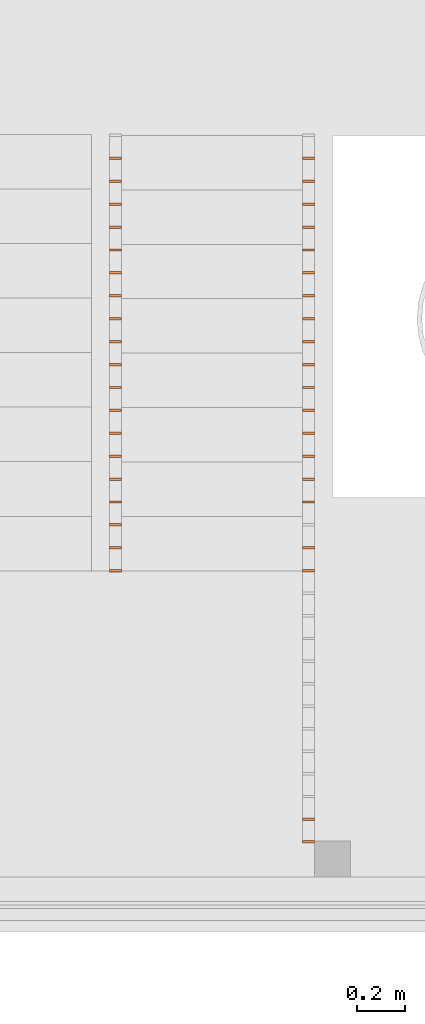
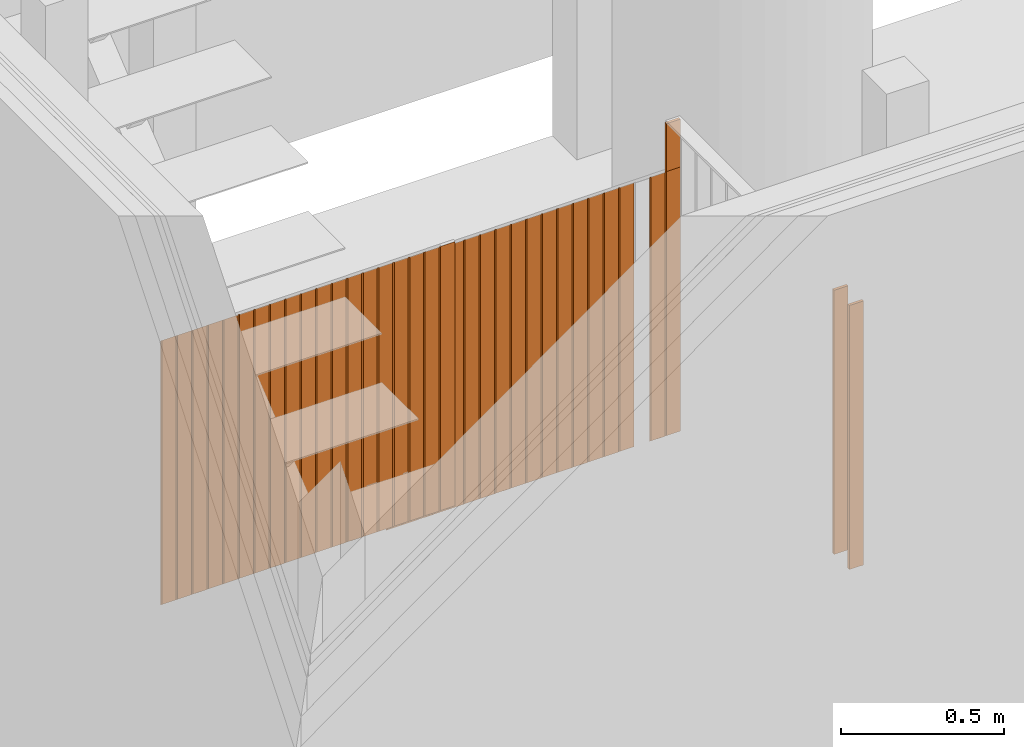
# One storey, part 107 of 112: 40 proxies, 3 elements without a shape of their own.
"""IFC2X3 building model written with IfcOpenShell, lengths in millimetres."""

from ifc_helpers import new_model, entity, si_unit, converted_unit, derived_unit, money_unit, direction, frame, origin_with_axes, place, context, subcontext, project, spatial, faceted_brep, material, type_object, element, aggregate, save


model = new_model("IFC2X3")

# Units and contexts
model_context = context("Model", 3, precision=0.01, world=origin_with_axes(), true_north=direction((0.0, 1.0)))
body_context = subcontext(model_context, "Body", "Model", "MODEL_VIEW")
ifc_project = project(units=[si_unit("LENGTHUNIT", "METRE", prefix="MILLI"), si_unit("AREAUNIT", "SQUARE_METRE"), si_unit("VOLUMEUNIT", "CUBIC_METRE"), converted_unit("PLANEANGLEUNIT", "DEGREE", entity("IfcPlaneAngleMeasure", 0.0174532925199), si_unit("PLANEANGLEUNIT", "RADIAN"), dimensions=[0, 0, 0, 0, 0, 0, 0]), si_unit("SOLIDANGLEUNIT", "STERADIAN"), money_unit("EUR"), converted_unit("TIMEUNIT", "Year", entity("IfcTimeMeasure", 31556926.0), si_unit("TIMEUNIT", "SECOND"), dimensions=[0, 0, 1, 0, 0, 0, 0]), si_unit("MASSUNIT", "GRAM", prefix="KILO"), si_unit("THERMODYNAMICTEMPERATUREUNIT", "DEGREE_CELSIUS"), si_unit("LUMINOUSINTENSITYUNIT", "LUMEN"), si_unit("ENERGYUNIT", "JOULE", prefix="MEGA"), derived_unit("THERMALCONDUCTANCEUNIT", [(si_unit("POWERUNIT", "WATT"), 1), (si_unit("LENGTHUNIT", "METRE"), -1), (si_unit("THERMODYNAMICTEMPERATUREUNIT", "KELVIN"), -1)]), derived_unit("SPECIFICHEATCAPACITYUNIT", [(si_unit("ENERGYUNIT", "JOULE"), 1), (si_unit("MASSUNIT", "GRAM", prefix="KILO"), -1), (si_unit("THERMODYNAMICTEMPERATUREUNIT", "KELVIN"), -1)]), derived_unit("MASSDENSITYUNIT", [(si_unit("MASSUNIT", "GRAM", prefix="KILO"), 1), (si_unit("VOLUMEUNIT", "CUBIC_METRE"), -1)])], contexts=[model_context])

# Site, building, storey
site_placement = place(None, origin_with_axes())
site = spatial("IfcSite", under=ifc_project, at=site_placement, Name="Politse- ja Piirivalveameti ning Päästeameti ühishoone", CompositionType="ELEMENT")
building_placement = place(site_placement, origin_with_axes())
building = spatial("IfcBuilding", under=site, at=building_placement, Name="Politse- ja Piirivalveameti ning Päästeameti ühishoone", CompositionType="ELEMENT")
storey_placement = place(building_placement, origin_with_axes())
storey = spatial("IfcBuildingStorey", under=building, at=storey_placement, Name="Esimene korrus", CompositionType="ELEMENT", Elevation=0.0)

# Railing, proxies
railing_type = type_object("IfcRailingType", Name="Railing Type", PredefinedType="NOTDEFINED")
railing_1_placement = place(storey_placement, frame((-13032.0653854, 2843.99975677, 0.0), z_axis=(0.0, 0.0, 1.0), x_axis=(-1.0, 0.0, 0.0)))
railing_1 = element("IfcRailing", 1, at=railing_1_placement, inside=storey, type_object=railing_type, Name="PIIRE 2", PredefinedType="NOTDEFINED")
ifc_material = material(Name="Teras - Konstruktsioon")
building_element_proxy_type = type_object("IfcBuildingElementProxyType", Name="IfcBuildingElementProxy", PredefinedType="NOTDEFINED")
proxy_1_placement = place(railing_1_placement, frame((-25.0, 1648.49975677, 1466.66666667), z_axis=(0.0, 0.0, 1.0), x_axis=(-1.0, 0.0, 0.0)))
proxy_1 = element("IfcBuildingElementProxy", 2, at=proxy_1_placement, type_object=building_element_proxy_type, material=ifc_material, Name="PIIRDE POST - 001", context=body_context, shape_type="Brep", body=[
    faceted_brep([(-25.0, -5.0, 4.06243551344), (25.0, -5.0, 4.06243551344), (25.0, -5.0, 994.062435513), (-25.0, -5.0, 994.062435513), (-25.0, 5.0, -4.06243551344), (25.0, 5.0, -4.06243551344), (25.0, 5.0, 985.937564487), (-25.0, 5.0, 985.937564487)], [[[0, 1, 2, 3]], [[0, 4, 5, 1]], [[1, 5, 6, 2]], [[3, 2, 6, 7]], [[4, 0, 3, 7]], [[5, 4, 7, 6]]]),
])
proxy_2_placement = place(railing_1_placement, frame((-25.0, -61.6488469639, 77.1929699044), z_axis=(0.0, 0.0, 1.0), x_axis=(-1.0, 0.0, 0.0)))
proxy_2 = element("IfcBuildingElementProxy", 3, at=proxy_2_placement, type_object=building_element_proxy_type, material=ifc_material, Name="BALUSTER - 001", context=body_context, shape_type="Brep", body=[
    faceted_brep([(-25.0, -5.0, 4.06243551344), (25.0, -5.0, 4.06243551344), (25.0, -5.0, 994.062448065), (-25.0, -5.0, 994.062448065), (-25.0, 5.0, -4.06243551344), (25.0, 5.0, -4.06243551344), (25.0, 5.0, 985.937577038), (-25.0, 5.0, 985.937577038)], [[[0, 1, 2, 3]], [[0, 4, 5, 1]], [[1, 5, 6, 2]], [[3, 2, 6, 7]], [[4, 0, 3, 7]], [[5, 4, 7, 6]]]),
])
proxy_3_placement = place(railing_1_placement, frame((-25.0, 33.3594087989, 154.385952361), z_axis=(0.0, 0.0, 1.0), x_axis=(-1.0, 0.0, 0.0)))
proxy_3 = element("IfcBuildingElementProxy", 4, at=proxy_3_placement, type_object=building_element_proxy_type, material=ifc_material, Name="BALUSTER - 001", context=body_context, shape_type="Brep", body=[
    faceted_brep([(-25.0, -5.0, 4.06243551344), (25.0, -5.0, 4.06243551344), (25.0, -5.0, 994.062448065), (-25.0, -5.0, 994.062448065), (-25.0, 5.0, -4.06243551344), (25.0, 5.0, -4.06243551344), (25.0, 5.0, 985.937577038), (-25.0, 5.0, 985.937577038)], [[[0, 1, 2, 3]], [[0, 4, 5, 1]], [[1, 5, 6, 2]], [[3, 2, 6, 7]], [[4, 0, 3, 7]], [[5, 4, 7, 6]]]),
])
proxy_4_placement = place(railing_1_placement, frame((-25.0, 128.367664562, 231.578934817), z_axis=(0.0, 0.0, 1.0), x_axis=(-1.0, 0.0, 0.0)))
proxy_4 = element("IfcBuildingElementProxy", 5, at=proxy_4_placement, type_object=building_element_proxy_type, material=ifc_material, Name="BALUSTER - 001", context=body_context, shape_type="Brep", body=[
    faceted_brep([(-25.0, -5.0, 4.06243551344), (25.0, -5.0, 4.06243551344), (25.0, -5.0, 994.062448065), (-25.0, -5.0, 994.062448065), (-25.0, 5.0, -4.06243551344), (25.0, 5.0, -4.06243551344), (25.0, 5.0, 985.937577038), (-25.0, 5.0, 985.937577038)], [[[0, 1, 2, 3]], [[0, 4, 5, 1]], [[1, 5, 6, 2]], [[3, 2, 6, 7]], [[4, 0, 3, 7]], [[5, 4, 7, 6]]]),
])
proxy_5_placement = place(railing_1_placement, frame((-25.0, 223.375920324, 308.771917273), z_axis=(0.0, 0.0, 1.0), x_axis=(-1.0, 0.0, 0.0)))
proxy_5 = element("IfcBuildingElementProxy", 6, at=proxy_5_placement, type_object=building_element_proxy_type, material=ifc_material, Name="BALUSTER - 001", context=body_context, shape_type="Brep", body=[
    faceted_brep([(-25.0, -5.0, 4.06243551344), (25.0, -5.0, 4.06243551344), (25.0, -5.0, 994.062448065), (-25.0, -5.0, 994.062448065), (-25.0, 5.0, -4.06243551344), (25.0, 5.0, -4.06243551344), (25.0, 5.0, 985.937577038), (-25.0, 5.0, 985.937577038)], [[[0, 1, 2, 3]], [[0, 4, 5, 1]], [[1, 5, 6, 2]], [[3, 2, 6, 7]], [[4, 0, 3, 7]], [[5, 4, 7, 6]]]),
])
proxy_6_placement = place(railing_1_placement, frame((-25.0, 318.384176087, 385.964899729), z_axis=(0.0, 0.0, 1.0), x_axis=(-1.0, 0.0, 0.0)))
proxy_6 = element("IfcBuildingElementProxy", 7, at=proxy_6_placement, type_object=building_element_proxy_type, material=ifc_material, Name="BALUSTER - 001", context=body_context, shape_type="Brep", body=[
    faceted_brep([(-25.0, -5.0, 4.06243551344), (25.0, -5.0, 4.06243551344), (25.0, -5.0, 994.062448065), (-25.0, -5.0, 994.062448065), (-25.0, 5.0, -4.06243551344), (25.0, 5.0, -4.06243551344), (25.0, 5.0, 985.937577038), (-25.0, 5.0, 985.937577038)], [[[0, 1, 2, 3]], [[0, 4, 5, 1]], [[1, 5, 6, 2]], [[3, 2, 6, 7]], [[4, 0, 3, 7]], [[5, 4, 7, 6]]]),
])
proxy_7_placement = place(railing_1_placement, frame((-25.0, 413.39243185, 463.157882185), z_axis=(0.0, 0.0, 1.0), x_axis=(-1.0, 0.0, 0.0)))
proxy_7 = element("IfcBuildingElementProxy", 8, at=proxy_7_placement, type_object=building_element_proxy_type, material=ifc_material, Name="BALUSTER - 001", context=body_context, shape_type="Brep", body=[
    faceted_brep([(-25.0, -5.0, 4.06243551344), (25.0, -5.0, 4.06243551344), (25.0, -5.0, 994.062448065), (-25.0, -5.0, 994.062448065), (-25.0, 5.0, -4.06243551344), (25.0, 5.0, -4.06243551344), (25.0, 5.0, 985.937577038), (-25.0, 5.0, 985.937577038)], [[[0, 1, 2, 3]], [[0, 4, 5, 1]], [[1, 5, 6, 2]], [[3, 2, 6, 7]], [[4, 0, 3, 7]], [[5, 4, 7, 6]]]),
])
proxy_8_placement = place(railing_1_placement, frame((-25.0, 508.400687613, 540.350864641), z_axis=(0.0, 0.0, 1.0), x_axis=(-1.0, 0.0, 0.0)))
proxy_8 = element("IfcBuildingElementProxy", 9, at=proxy_8_placement, type_object=building_element_proxy_type, material=ifc_material, Name="BALUSTER - 001", context=body_context, shape_type="Brep", body=[
    faceted_brep([(-25.0, -5.0, 4.06243551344), (25.0, -5.0, 4.06243551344), (25.0, -5.0, 994.062448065), (-25.0, -5.0, 994.062448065), (-25.0, 5.0, -4.06243551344), (25.0, 5.0, -4.06243551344), (25.0, 5.0, 985.937577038), (-25.0, 5.0, 985.937577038)], [[[0, 1, 2, 3]], [[0, 4, 5, 1]], [[1, 5, 6, 2]], [[3, 2, 6, 7]], [[4, 0, 3, 7]], [[5, 4, 7, 6]]]),
])
proxy_9_placement = place(railing_1_placement, frame((-25.0, 603.408943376, 617.543847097), z_axis=(0.0, 0.0, 1.0), x_axis=(-1.0, 0.0, 0.0)))
proxy_9 = element("IfcBuildingElementProxy", 10, at=proxy_9_placement, type_object=building_element_proxy_type, material=ifc_material, Name="BALUSTER - 001", context=body_context, shape_type="Brep", body=[
    faceted_brep([(-25.0, -5.0, 4.06243551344), (25.0, -5.0, 4.06243551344), (25.0, -5.0, 994.062448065), (-25.0, -5.0, 994.062448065), (-25.0, 5.0, -4.06243551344), (25.0, 5.0, -4.06243551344), (25.0, 5.0, 985.937577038), (-25.0, 5.0, 985.937577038)], [[[0, 1, 2, 3]], [[0, 4, 5, 1]], [[1, 5, 6, 2]], [[3, 2, 6, 7]], [[4, 0, 3, 7]], [[5, 4, 7, 6]]]),
])
proxy_10_placement = place(railing_1_placement, frame((-25.0, 698.417199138, 694.736829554), z_axis=(0.0, 0.0, 1.0), x_axis=(-1.0, 0.0, 0.0)))
proxy_10 = element("IfcBuildingElementProxy", 11, at=proxy_10_placement, type_object=building_element_proxy_type, material=ifc_material, Name="BALUSTER - 001", context=body_context, shape_type="Brep", body=[
    faceted_brep([(-25.0, -5.0, 4.06243551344), (25.0, -5.0, 4.06243551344), (25.0, -5.0, 994.062448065), (-25.0, -5.0, 994.062448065), (-25.0, 5.0, -4.06243551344), (25.0, 5.0, -4.06243551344), (25.0, 5.0, 985.937577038), (-25.0, 5.0, 985.937577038)], [[[0, 1, 2, 3]], [[0, 4, 5, 1]], [[1, 5, 6, 2]], [[3, 2, 6, 7]], [[4, 0, 3, 7]], [[5, 4, 7, 6]]]),
])
proxy_11_placement = place(railing_1_placement, frame((-25.0, 793.425454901, 771.92981201), z_axis=(0.0, 0.0, 1.0), x_axis=(-1.0, 0.0, 0.0)))
proxy_11 = element("IfcBuildingElementProxy", 12, at=proxy_11_placement, type_object=building_element_proxy_type, material=ifc_material, Name="BALUSTER - 001", context=body_context, shape_type="Brep", body=[
    faceted_brep([(-25.0, -5.0, 4.06243551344), (25.0, -5.0, 4.06243551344), (25.0, -5.0, 994.062448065), (-25.0, -5.0, 994.062448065), (-25.0, 5.0, -4.06243551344), (25.0, 5.0, -4.06243551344), (25.0, 5.0, 985.937577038), (-25.0, 5.0, 985.937577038)], [[[0, 1, 2, 3]], [[0, 4, 5, 1]], [[1, 5, 6, 2]], [[3, 2, 6, 7]], [[4, 0, 3, 7]], [[5, 4, 7, 6]]]),
])
proxy_12_placement = place(railing_1_placement, frame((-25.0, 888.433710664, 849.122794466), z_axis=(0.0, 0.0, 1.0), x_axis=(-1.0, 0.0, 0.0)))
proxy_12 = element("IfcBuildingElementProxy", 13, at=proxy_12_placement, type_object=building_element_proxy_type, material=ifc_material, Name="BALUSTER - 001", context=body_context, shape_type="Brep", body=[
    faceted_brep([(-25.0, -5.0, 4.06243551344), (25.0, -5.0, 4.06243551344), (25.0, -5.0, 994.062448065), (-25.0, -5.0, 994.062448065), (-25.0, 5.0, -4.06243551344), (25.0, 5.0, -4.06243551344), (25.0, 5.0, 985.937577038), (-25.0, 5.0, 985.937577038)], [[[0, 1, 2, 3]], [[0, 4, 5, 1]], [[1, 5, 6, 2]], [[3, 2, 6, 7]], [[4, 0, 3, 7]], [[5, 4, 7, 6]]]),
])
proxy_13_placement = place(railing_1_placement, frame((-25.0, 983.441966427, 926.315776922), z_axis=(0.0, 0.0, 1.0), x_axis=(-1.0, 0.0, 0.0)))
proxy_13 = element("IfcBuildingElementProxy", 14, at=proxy_13_placement, type_object=building_element_proxy_type, material=ifc_material, Name="BALUSTER - 001", context=body_context, shape_type="Brep", body=[
    faceted_brep([(-25.0, -5.0, 4.06243551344), (25.0, -5.0, 4.06243551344), (25.0, -5.0, 994.062448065), (-25.0, -5.0, 994.062448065), (-25.0, 5.0, -4.06243551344), (25.0, 5.0, -4.06243551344), (25.0, 5.0, 985.937577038), (-25.0, 5.0, 985.937577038)], [[[0, 1, 2, 3]], [[0, 4, 5, 1]], [[1, 5, 6, 2]], [[3, 2, 6, 7]], [[4, 0, 3, 7]], [[5, 4, 7, 6]]]),
])
proxy_14_placement = place(railing_1_placement, frame((-25.0, 1078.45022219, 1003.50875938), z_axis=(0.0, 0.0, 1.0), x_axis=(-1.0, 0.0, 0.0)))
proxy_14 = element("IfcBuildingElementProxy", 15, at=proxy_14_placement, type_object=building_element_proxy_type, material=ifc_material, Name="BALUSTER - 001", context=body_context, shape_type="Brep", body=[
    faceted_brep([(-25.0, -5.0, 4.06243551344), (25.0, -5.0, 4.06243551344), (25.0, -5.0, 994.062448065), (-25.0, -5.0, 994.062448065), (-25.0, 5.0, -4.06243551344), (25.0, 5.0, -4.06243551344), (25.0, 5.0, 985.937577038), (-25.0, 5.0, 985.937577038)], [[[0, 1, 2, 3]], [[0, 4, 5, 1]], [[1, 5, 6, 2]], [[3, 2, 6, 7]], [[4, 0, 3, 7]], [[5, 4, 7, 6]]]),
])
proxy_15_placement = place(railing_1_placement, frame((-25.0, 1173.45847795, 1080.70174183), z_axis=(0.0, 0.0, 1.0), x_axis=(-1.0, 0.0, 0.0)))
proxy_15 = element("IfcBuildingElementProxy", 16, at=proxy_15_placement, type_object=building_element_proxy_type, material=ifc_material, Name="BALUSTER - 001", context=body_context, shape_type="Brep", body=[
    faceted_brep([(-25.0, -5.0, 4.06243551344), (25.0, -5.0, 4.06243551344), (25.0, -5.0, 994.062448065), (-25.0, -5.0, 994.062448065), (-25.0, 5.0, -4.06243551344), (25.0, 5.0, -4.06243551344), (25.0, 5.0, 985.937577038), (-25.0, 5.0, 985.937577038)], [[[0, 1, 2, 3]], [[0, 4, 5, 1]], [[1, 5, 6, 2]], [[3, 2, 6, 7]], [[4, 0, 3, 7]], [[5, 4, 7, 6]]]),
])
proxy_16_placement = place(railing_1_placement, frame((-25.0, 1268.46673372, 1157.89472429), z_axis=(0.0, 0.0, 1.0), x_axis=(-1.0, 0.0, 0.0)))
proxy_16 = element("IfcBuildingElementProxy", 17, at=proxy_16_placement, type_object=building_element_proxy_type, material=ifc_material, Name="BALUSTER - 001", context=body_context, shape_type="Brep", body=[
    faceted_brep([(-25.0, -5.0, 4.06243551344), (25.0, -5.0, 4.06243551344), (25.0, -5.0, 994.062448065), (-25.0, -5.0, 994.062448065), (-25.0, 5.0, -4.06243551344), (25.0, 5.0, -4.06243551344), (25.0, 5.0, 985.937577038), (-25.0, 5.0, 985.937577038)], [[[0, 1, 2, 3]], [[0, 4, 5, 1]], [[1, 5, 6, 2]], [[3, 2, 6, 7]], [[4, 0, 3, 7]], [[5, 4, 7, 6]]]),
])
proxy_17_placement = place(railing_1_placement, frame((-25.0, 1363.47498948, 1235.08770675), z_axis=(0.0, 0.0, 1.0), x_axis=(-1.0, 0.0, 0.0)))
proxy_17 = element("IfcBuildingElementProxy", 18, at=proxy_17_placement, type_object=building_element_proxy_type, material=ifc_material, Name="BALUSTER - 001", context=body_context, shape_type="Brep", body=[
    faceted_brep([(-25.0, -5.0, 4.06243551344), (25.0, -5.0, 4.06243551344), (25.0, -5.0, 994.062448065), (-25.0, -5.0, 994.062448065), (-25.0, 5.0, -4.06243551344), (25.0, 5.0, -4.06243551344), (25.0, 5.0, 985.937577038), (-25.0, 5.0, 985.937577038)], [[[0, 1, 2, 3]], [[0, 4, 5, 1]], [[1, 5, 6, 2]], [[3, 2, 6, 7]], [[4, 0, 3, 7]], [[5, 4, 7, 6]]]),
])
proxy_18_placement = place(railing_1_placement, frame((-25.0, 1458.48324524, 1312.2806892), z_axis=(0.0, 0.0, 1.0), x_axis=(-1.0, 0.0, 0.0)))
proxy_18 = element("IfcBuildingElementProxy", 19, at=proxy_18_placement, type_object=building_element_proxy_type, material=ifc_material, Name="BALUSTER - 001", context=body_context, shape_type="Brep", body=[
    faceted_brep([(-25.0, -5.0, 4.06243551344), (25.0, -5.0, 4.06243551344), (25.0, -5.0, 994.062448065), (-25.0, -5.0, 994.062448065), (-25.0, 5.0, -4.06243551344), (25.0, 5.0, -4.06243551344), (25.0, 5.0, 985.937577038), (-25.0, 5.0, 985.937577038)], [[[0, 1, 2, 3]], [[0, 4, 5, 1]], [[1, 5, 6, 2]], [[3, 2, 6, 7]], [[4, 0, 3, 7]], [[5, 4, 7, 6]]]),
])
proxy_19_placement = place(railing_1_placement, frame((-25.0, 1553.491501, 1389.47367166), z_axis=(0.0, 0.0, 1.0), x_axis=(-1.0, 0.0, 0.0)))
proxy_19 = element("IfcBuildingElementProxy", 20, at=proxy_19_placement, type_object=building_element_proxy_type, material=ifc_material, Name="BALUSTER - 001", context=body_context, shape_type="Brep", body=[
    faceted_brep([(-25.0, -5.0, 4.06243551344), (25.0, -5.0, 4.06243551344), (25.0, -5.0, 994.062448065), (-25.0, -5.0, 994.062448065), (-25.0, 5.0, -4.06243551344), (25.0, 5.0, -4.06243551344), (25.0, 5.0, 985.937577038), (-25.0, 5.0, 985.937577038)], [[[0, 1, 2, 3]], [[0, 4, 5, 1]], [[1, 5, 6, 2]], [[3, 2, 6, 7]], [[4, 0, 3, 7]], [[5, 4, 7, 6]]]),
])
aggregate(railing_1, [proxy_1, proxy_2, proxy_3, proxy_4, proxy_5, proxy_6, proxy_7, proxy_8, proxy_9, proxy_10, proxy_11, proxy_12, proxy_13, proxy_14, proxy_15, proxy_16, proxy_17, proxy_18, proxy_19])

railing_2_placement = place(storey_placement, frame((-12182.0653854, 2843.99975677, 0.0), z_axis=(0.0, 0.0, 1.0), x_axis=(1.0, 0.0, 0.0)))
railing_2 = element("IfcRailing", 21, at=railing_2_placement, inside=storey, type_object=railing_type, Name="PIIRE 2", PredefinedType="NOTDEFINED")
proxy_20_placement = place(railing_2_placement, frame((-25.0, -1648.49975677, 1466.66666667), z_axis=(0.0, 0.0, 1.0), x_axis=(1.0, 0.0, 0.0)))
proxy_20 = element("IfcBuildingElementProxy", 22, at=proxy_20_placement, type_object=building_element_proxy_type, material=ifc_material, Name="PIIRDE POST - 001", context=body_context, shape_type="Brep", body=[
    faceted_brep([(-25.0, -5.0, 4.06243551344), (25.0, -5.0, 4.06243551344), (25.0, -5.0, 994.062435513), (-25.0, -5.0, 994.062435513), (-25.0, 5.0, -4.06243551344), (25.0, 5.0, -4.06243551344), (25.0, 5.0, 985.937564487), (-25.0, 5.0, 985.937564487)], [[[0, 1, 2, 3]], [[0, 4, 5, 1]], [[1, 5, 6, 2]], [[3, 2, 6, 7]], [[4, 0, 3, 7]], [[5, 4, 7, 6]]]),
])
proxy_21_placement = place(railing_2_placement, frame((-25.0, 61.6488469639, 77.1929699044), z_axis=(0.0, 0.0, 1.0), x_axis=(1.0, 0.0, 0.0)))
proxy_21 = element("IfcBuildingElementProxy", 23, at=proxy_21_placement, type_object=building_element_proxy_type, material=ifc_material, Name="BALUSTER - 001", context=body_context, shape_type="Brep", body=[
    faceted_brep([(-25.0, -5.0, 4.06243551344), (25.0, -5.0, 4.06243551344), (25.0, -5.0, 994.062448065), (-25.0, -5.0, 994.062448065), (-25.0, 5.0, -4.06243551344), (25.0, 5.0, -4.06243551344), (25.0, 5.0, 985.937577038), (-25.0, 5.0, 985.937577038)], [[[0, 1, 2, 3]], [[0, 4, 5, 1]], [[1, 5, 6, 2]], [[3, 2, 6, 7]], [[4, 0, 3, 7]], [[5, 4, 7, 6]]]),
])
proxy_22_placement = place(railing_2_placement, frame((-25.0, -33.3594087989, 154.385952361), z_axis=(0.0, 0.0, 1.0), x_axis=(1.0, 0.0, 0.0)))
proxy_22 = element("IfcBuildingElementProxy", 24, at=proxy_22_placement, type_object=building_element_proxy_type, material=ifc_material, Name="BALUSTER - 001", context=body_context, shape_type="Brep", body=[
    faceted_brep([(-25.0, -5.0, 4.06243551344), (25.0, -5.0, 4.06243551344), (25.0, -5.0, 994.062448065), (-25.0, -5.0, 994.062448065), (-25.0, 5.0, -4.06243551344), (25.0, 5.0, -4.06243551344), (25.0, 5.0, 985.937577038), (-25.0, 5.0, 985.937577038)], [[[0, 1, 2, 3]], [[0, 4, 5, 1]], [[1, 5, 6, 2]], [[3, 2, 6, 7]], [[4, 0, 3, 7]], [[5, 4, 7, 6]]]),
])
proxy_23_placement = place(railing_2_placement, frame((-25.0, -128.367664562, 231.578934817), z_axis=(0.0, 0.0, 1.0), x_axis=(1.0, 0.0, 0.0)))
proxy_23 = element("IfcBuildingElementProxy", 25, at=proxy_23_placement, type_object=building_element_proxy_type, material=ifc_material, Name="BALUSTER - 001", context=body_context, shape_type="Brep", body=[
    faceted_brep([(-25.0, -5.0, 4.06243551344), (25.0, -5.0, 4.06243551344), (25.0, -5.0, 994.062448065), (-25.0, -5.0, 994.062448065), (-25.0, 5.0, -4.06243551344), (25.0, 5.0, -4.06243551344), (25.0, 5.0, 985.937577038), (-25.0, 5.0, 985.937577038)], [[[0, 1, 2, 3]], [[0, 4, 5, 1]], [[1, 5, 6, 2]], [[3, 2, 6, 7]], [[4, 0, 3, 7]], [[5, 4, 7, 6]]]),
])
proxy_24_placement = place(railing_2_placement, frame((-25.0, -223.375920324, 308.771917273), z_axis=(0.0, 0.0, 1.0), x_axis=(1.0, 0.0, 0.0)))
proxy_24 = element("IfcBuildingElementProxy", 26, at=proxy_24_placement, type_object=building_element_proxy_type, material=ifc_material, Name="BALUSTER - 001", context=body_context, shape_type="Brep", body=[
    faceted_brep([(-25.0, -5.0, 4.06243551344), (25.0, -5.0, 4.06243551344), (25.0, -5.0, 994.062448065), (-25.0, -5.0, 994.062448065), (-25.0, 5.0, -4.06243551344), (25.0, 5.0, -4.06243551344), (25.0, 5.0, 985.937577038), (-25.0, 5.0, 985.937577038)], [[[0, 1, 2, 3]], [[0, 4, 5, 1]], [[1, 5, 6, 2]], [[3, 2, 6, 7]], [[4, 0, 3, 7]], [[5, 4, 7, 6]]]),
])
proxy_25_placement = place(railing_2_placement, frame((-25.0, -318.384176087, 385.964899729), z_axis=(0.0, 0.0, 1.0), x_axis=(1.0, 0.0, 0.0)))
proxy_25 = element("IfcBuildingElementProxy", 27, at=proxy_25_placement, type_object=building_element_proxy_type, material=ifc_material, Name="BALUSTER - 001", context=body_context, shape_type="Brep", body=[
    faceted_brep([(-25.0, -5.0, 4.06243551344), (25.0, -5.0, 4.06243551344), (25.0, -5.0, 994.062448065), (-25.0, -5.0, 994.062448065), (-25.0, 5.0, -4.06243551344), (25.0, 5.0, -4.06243551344), (25.0, 5.0, 985.937577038), (-25.0, 5.0, 985.937577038)], [[[0, 1, 2, 3]], [[0, 4, 5, 1]], [[1, 5, 6, 2]], [[3, 2, 6, 7]], [[4, 0, 3, 7]], [[5, 4, 7, 6]]]),
])
proxy_26_placement = place(railing_2_placement, frame((-25.0, -413.39243185, 463.157882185), z_axis=(0.0, 0.0, 1.0), x_axis=(1.0, 0.0, 0.0)))
proxy_26 = element("IfcBuildingElementProxy", 28, at=proxy_26_placement, type_object=building_element_proxy_type, material=ifc_material, Name="BALUSTER - 001", context=body_context, shape_type="Brep", body=[
    faceted_brep([(-25.0, -5.0, 4.06243551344), (25.0, -5.0, 4.06243551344), (25.0, -5.0, 994.062448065), (-25.0, -5.0, 994.062448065), (-25.0, 5.0, -4.06243551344), (25.0, 5.0, -4.06243551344), (25.0, 5.0, 985.937577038), (-25.0, 5.0, 985.937577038)], [[[0, 1, 2, 3]], [[0, 4, 5, 1]], [[1, 5, 6, 2]], [[3, 2, 6, 7]], [[4, 0, 3, 7]], [[5, 4, 7, 6]]]),
])
proxy_27_placement = place(railing_2_placement, frame((-25.0, -508.400687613, 540.350864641), z_axis=(0.0, 0.0, 1.0), x_axis=(1.0, 0.0, 0.0)))
proxy_27 = element("IfcBuildingElementProxy", 29, at=proxy_27_placement, type_object=building_element_proxy_type, material=ifc_material, Name="BALUSTER - 001", context=body_context, shape_type="Brep", body=[
    faceted_brep([(-25.0, -5.0, 4.06243551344), (25.0, -5.0, 4.06243551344), (25.0, -5.0, 994.062448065), (-25.0, -5.0, 994.062448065), (-25.0, 5.0, -4.06243551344), (25.0, 5.0, -4.06243551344), (25.0, 5.0, 985.937577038), (-25.0, 5.0, 985.937577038)], [[[0, 1, 2, 3]], [[0, 4, 5, 1]], [[1, 5, 6, 2]], [[3, 2, 6, 7]], [[4, 0, 3, 7]], [[5, 4, 7, 6]]]),
])
proxy_28_placement = place(railing_2_placement, frame((-25.0, -603.408943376, 617.543847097), z_axis=(0.0, 0.0, 1.0), x_axis=(1.0, 0.0, 0.0)))
proxy_28 = element("IfcBuildingElementProxy", 30, at=proxy_28_placement, type_object=building_element_proxy_type, material=ifc_material, Name="BALUSTER - 001", context=body_context, shape_type="Brep", body=[
    faceted_brep([(-25.0, -5.0, 4.06243551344), (25.0, -5.0, 4.06243551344), (25.0, -5.0, 994.062448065), (-25.0, -5.0, 994.062448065), (-25.0, 5.0, -4.06243551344), (25.0, 5.0, -4.06243551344), (25.0, 5.0, 985.937577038), (-25.0, 5.0, 985.937577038)], [[[0, 1, 2, 3]], [[0, 4, 5, 1]], [[1, 5, 6, 2]], [[3, 2, 6, 7]], [[4, 0, 3, 7]], [[5, 4, 7, 6]]]),
])
proxy_29_placement = place(railing_2_placement, frame((-25.0, -698.417199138, 694.736829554), z_axis=(0.0, 0.0, 1.0), x_axis=(1.0, 0.0, 0.0)))
proxy_29 = element("IfcBuildingElementProxy", 31, at=proxy_29_placement, type_object=building_element_proxy_type, material=ifc_material, Name="BALUSTER - 001", context=body_context, shape_type="Brep", body=[
    faceted_brep([(-25.0, -5.0, 4.06243551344), (25.0, -5.0, 4.06243551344), (25.0, -5.0, 994.062448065), (-25.0, -5.0, 994.062448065), (-25.0, 5.0, -4.06243551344), (25.0, 5.0, -4.06243551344), (25.0, 5.0, 985.937577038), (-25.0, 5.0, 985.937577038)], [[[0, 1, 2, 3]], [[0, 4, 5, 1]], [[1, 5, 6, 2]], [[3, 2, 6, 7]], [[4, 0, 3, 7]], [[5, 4, 7, 6]]]),
])
proxy_30_placement = place(railing_2_placement, frame((-25.0, -793.425454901, 771.92981201), z_axis=(0.0, 0.0, 1.0), x_axis=(1.0, 0.0, 0.0)))
proxy_30 = element("IfcBuildingElementProxy", 32, at=proxy_30_placement, type_object=building_element_proxy_type, material=ifc_material, Name="BALUSTER - 001", context=body_context, shape_type="Brep", body=[
    faceted_brep([(-25.0, -5.0, 4.06243551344), (25.0, -5.0, 4.06243551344), (25.0, -5.0, 994.062448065), (-25.0, -5.0, 994.062448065), (-25.0, 5.0, -4.06243551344), (25.0, 5.0, -4.06243551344), (25.0, 5.0, 985.937577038), (-25.0, 5.0, 985.937577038)], [[[0, 1, 2, 3]], [[0, 4, 5, 1]], [[1, 5, 6, 2]], [[3, 2, 6, 7]], [[4, 0, 3, 7]], [[5, 4, 7, 6]]]),
])
proxy_31_placement = place(railing_2_placement, frame((-25.0, -888.433710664, 849.122794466), z_axis=(0.0, 0.0, 1.0), x_axis=(1.0, 0.0, 0.0)))
proxy_31 = element("IfcBuildingElementProxy", 33, at=proxy_31_placement, type_object=building_element_proxy_type, material=ifc_material, Name="BALUSTER - 001", context=body_context, shape_type="Brep", body=[
    faceted_brep([(-25.0, -5.0, 4.06243551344), (25.0, -5.0, 4.06243551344), (25.0, -5.0, 994.062448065), (-25.0, -5.0, 994.062448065), (-25.0, 5.0, -4.06243551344), (25.0, 5.0, -4.06243551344), (25.0, 5.0, 985.937577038), (-25.0, 5.0, 985.937577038)], [[[0, 1, 2, 3]], [[0, 4, 5, 1]], [[1, 5, 6, 2]], [[3, 2, 6, 7]], [[4, 0, 3, 7]], [[5, 4, 7, 6]]]),
])
proxy_32_placement = place(railing_2_placement, frame((-25.0, -983.441966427, 926.315776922), z_axis=(0.0, 0.0, 1.0), x_axis=(1.0, 0.0, 0.0)))
proxy_32 = element("IfcBuildingElementProxy", 34, at=proxy_32_placement, type_object=building_element_proxy_type, material=ifc_material, Name="BALUSTER - 001", context=body_context, shape_type="Brep", body=[
    faceted_brep([(-25.0, -5.0, 4.06243551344), (25.0, -5.0, 4.06243551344), (25.0, -5.0, 994.062448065), (-25.0, -5.0, 994.062448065), (-25.0, 5.0, -4.06243551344), (25.0, 5.0, -4.06243551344), (25.0, 5.0, 985.937577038), (-25.0, 5.0, 985.937577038)], [[[0, 1, 2, 3]], [[0, 4, 5, 1]], [[1, 5, 6, 2]], [[3, 2, 6, 7]], [[4, 0, 3, 7]], [[5, 4, 7, 6]]]),
])
proxy_33_placement = place(railing_2_placement, frame((-25.0, -1078.45022219, 1003.50875938), z_axis=(0.0, 0.0, 1.0), x_axis=(1.0, 0.0, 0.0)))
proxy_33 = element("IfcBuildingElementProxy", 35, at=proxy_33_placement, type_object=building_element_proxy_type, material=ifc_material, Name="BALUSTER - 001", context=body_context, shape_type="Brep", body=[
    faceted_brep([(-25.0, -5.0, 4.06243551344), (25.0, -5.0, 4.06243551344), (25.0, -5.0, 994.062448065), (-25.0, -5.0, 994.062448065), (-25.0, 5.0, -4.06243551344), (25.0, 5.0, -4.06243551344), (25.0, 5.0, 985.937577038), (-25.0, 5.0, 985.937577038)], [[[0, 1, 2, 3]], [[0, 4, 5, 1]], [[1, 5, 6, 2]], [[3, 2, 6, 7]], [[4, 0, 3, 7]], [[5, 4, 7, 6]]]),
])
proxy_34_placement = place(railing_2_placement, frame((-25.0, -1173.45847795, 1080.70174183), z_axis=(0.0, 0.0, 1.0), x_axis=(1.0, 0.0, 0.0)))
proxy_34 = element("IfcBuildingElementProxy", 36, at=proxy_34_placement, type_object=building_element_proxy_type, material=ifc_material, Name="BALUSTER - 001", context=body_context, shape_type="Brep", body=[
    faceted_brep([(-25.0, -5.0, 4.06243551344), (25.0, -5.0, 4.06243551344), (25.0, -5.0, 994.062448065), (-25.0, -5.0, 994.062448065), (-25.0, 5.0, -4.06243551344), (25.0, 5.0, -4.06243551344), (25.0, 5.0, 985.937577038), (-25.0, 5.0, 985.937577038)], [[[0, 1, 2, 3]], [[0, 4, 5, 1]], [[1, 5, 6, 2]], [[3, 2, 6, 7]], [[4, 0, 3, 7]], [[5, 4, 7, 6]]]),
])
proxy_35_placement = place(railing_2_placement, frame((-25.0, -1268.46673372, 1157.89472429), z_axis=(0.0, 0.0, 1.0), x_axis=(1.0, 0.0, 0.0)))
proxy_35 = element("IfcBuildingElementProxy", 37, at=proxy_35_placement, type_object=building_element_proxy_type, material=ifc_material, Name="BALUSTER - 001", context=body_context, shape_type="Brep", body=[
    faceted_brep([(-25.0, -5.0, 4.06243551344), (25.0, -5.0, 4.06243551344), (25.0, -5.0, 994.062448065), (-25.0, -5.0, 994.062448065), (-25.0, 5.0, -4.06243551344), (25.0, 5.0, -4.06243551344), (25.0, 5.0, 985.937577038), (-25.0, 5.0, 985.937577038)], [[[0, 1, 2, 3]], [[0, 4, 5, 1]], [[1, 5, 6, 2]], [[3, 2, 6, 7]], [[4, 0, 3, 7]], [[5, 4, 7, 6]]]),
])
proxy_36_placement = place(railing_2_placement, frame((-25.0, -1363.47498948, 1235.08770675), z_axis=(0.0, 0.0, 1.0), x_axis=(1.0, 0.0, 0.0)))
proxy_36 = element("IfcBuildingElementProxy", 38, at=proxy_36_placement, type_object=building_element_proxy_type, material=ifc_material, Name="BALUSTER - 001", context=body_context, shape_type="Brep", body=[
    faceted_brep([(-25.0, -5.0, 4.06243551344), (25.0, -5.0, 4.06243551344), (25.0, -5.0, 994.062448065), (-25.0, -5.0, 994.062448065), (-25.0, 5.0, -4.06243551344), (25.0, 5.0, -4.06243551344), (25.0, 5.0, 985.937577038), (-25.0, 5.0, 985.937577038)], [[[0, 1, 2, 3]], [[0, 4, 5, 1]], [[1, 5, 6, 2]], [[3, 2, 6, 7]], [[4, 0, 3, 7]], [[5, 4, 7, 6]]]),
])
proxy_37_placement = place(railing_2_placement, frame((-25.0, -1553.491501, 1389.47367166), z_axis=(0.0, 0.0, 1.0), x_axis=(1.0, 0.0, 0.0)))
proxy_37 = element("IfcBuildingElementProxy", 39, at=proxy_37_placement, type_object=building_element_proxy_type, material=ifc_material, Name="BALUSTER - 001", context=body_context, shape_type="Brep", body=[
    faceted_brep([(-25.0, -5.0, 4.06243551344), (25.0, -5.0, 4.06243551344), (25.0, -5.0, 994.062448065), (-25.0, -5.0, 994.062448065), (-25.0, 5.0, -4.06243551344), (25.0, 5.0, -4.06243551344), (25.0, 5.0, 985.937577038), (-25.0, 5.0, 985.937577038)], [[[0, 1, 2, 3]], [[0, 4, 5, 1]], [[1, 5, 6, 2]], [[3, 2, 6, 7]], [[4, 0, 3, 7]], [[5, 4, 7, 6]]]),
])
aggregate(railing_2, [proxy_20, proxy_21, proxy_22, proxy_23, proxy_24, proxy_25, proxy_26, proxy_27, proxy_28, proxy_29, proxy_30, proxy_31, proxy_32, proxy_33, proxy_34, proxy_35, proxy_36, proxy_37])

railing_3_placement = place(storey_placement, frame((-12182.0653854, 2843.99975677, 1650.00001255), z_axis=(0.0, 0.0, 1.0), x_axis=(1.0, 0.0, 0.0)))
railing_3 = element("IfcRailing", 40, at=railing_3_placement, inside=storey, type_object=railing_type, Name="PIIRE 2", PredefinedType="NOTDEFINED")
proxy_38_placement = place(railing_3_placement, frame((-25.0, -1648.49975677, 0.0), z_axis=(0.0, 0.0, 1.0), x_axis=(1.0, 0.0, 0.0)))
proxy_38 = element("IfcBuildingElementProxy", 41, at=proxy_38_placement, type_object=building_element_proxy_type, material=ifc_material, Name="PIIRDE POST - 001", context=body_context, shape_type="Brep", body=[
    faceted_brep([(-25.0, -5.0, 0.0), (25.0, -5.0, 0.0), (25.0, -5.0, 990.0), (-25.0, -5.0, 990.0), (-25.0, 5.0, 0.0), (25.0, 5.0, 0.0), (25.0, 5.0, 990.0), (-25.0, 5.0, 990.0)], [[[0, 1, 2, 3]], [[0, 4, 5, 1]], [[1, 5, 6, 2]], [[3, 2, 6, 7]], [[4, 0, 3, 7]], [[5, 4, 7, 6]]]),
])
proxy_39_placement = place(railing_3_placement, frame((-25.0, -2771.82361446, 0.0), z_axis=(0.0, 0.0, 1.0), x_axis=(1.0, 0.0, 0.0)))
proxy_39 = element("IfcBuildingElementProxy", 42, at=proxy_39_placement, type_object=building_element_proxy_type, material=ifc_material, Name="PIIRDE POST - 001", context=body_context, shape_type="Brep", body=[
    faceted_brep([(-25.0, -5.0, 0.0), (25.0, -5.0, 0.0), (25.0, -5.0, 990.0), (-25.0, -5.0, 990.0), (-25.0, 5.0, 0.0), (25.0, 5.0, 0.0), (25.0, 5.0, 990.0), (-25.0, 5.0, 990.0)], [[[0, 1, 2, 3]], [[0, 4, 5, 1]], [[1, 5, 6, 2]], [[3, 2, 6, 7]], [[4, 0, 3, 7]], [[5, 4, 7, 6]]]),
])
proxy_40_placement = place(railing_3_placement, frame((-25.0, -2678.21329298, -1.25517001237e-05), z_axis=(0.0, 0.0, 1.0), x_axis=(1.0, 0.0, 0.0)))
proxy_40 = element("IfcBuildingElementProxy", 43, at=proxy_40_placement, type_object=building_element_proxy_type, material=ifc_material, Name="BALUSTER - 001", context=body_context, shape_type="Brep", body=[
    faceted_brep([(-25.0, -5.0, 0.0), (25.0, -5.0, 0.0), (25.0, -5.0, 990.000012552), (-25.0, -5.0, 990.000012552), (-25.0, 5.0, 0.0), (25.0, 5.0, 0.0), (25.0, 5.0, 990.000012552), (-25.0, 5.0, 990.000012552)], [[[0, 1, 2, 3]], [[0, 4, 5, 1]], [[1, 5, 6, 2]], [[3, 2, 6, 7]], [[4, 0, 3, 7]], [[5, 4, 7, 6]]]),
])
aggregate(railing_3, [proxy_38, proxy_39, proxy_40])

save(model, "model.ifc")
